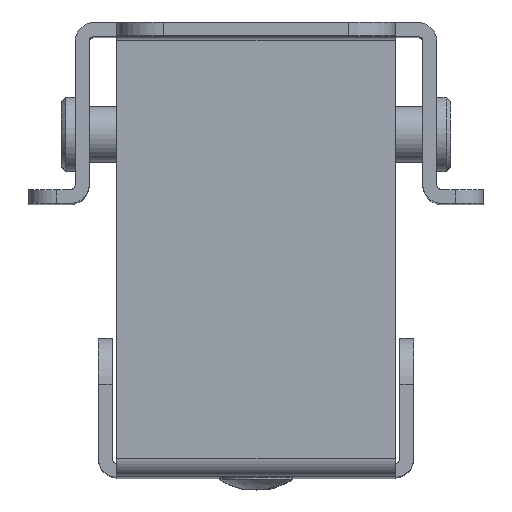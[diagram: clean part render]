
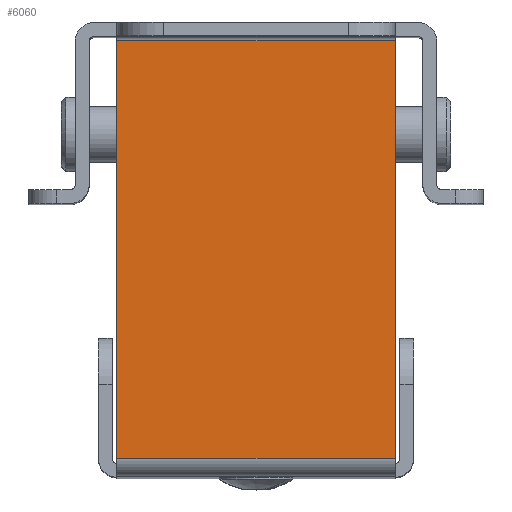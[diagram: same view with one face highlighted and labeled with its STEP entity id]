
A CAD part, top view. The second image highlights one B-rep face of the part: STEP entity #6060.
In plain terms, the highlighted planar face has unit normal (0, 0, 1) as drawn and (1, 0, 0) by its records, which use the part's own axes.
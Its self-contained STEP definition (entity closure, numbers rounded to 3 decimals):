
#315 = VECTOR ( 'NONE', #4804, 1000. ) ;
#437 = LINE ( 'NONE', #4262, #4689 ) ;
#1146 = CARTESIAN_POINT ( 'NONE',  ( 64.5, -2., -15. ) ) ;
#1393 = VECTOR ( 'NONE', #4259, 1000. ) ;
#1438 = CARTESIAN_POINT ( 'NONE',  ( 64.5, -47., 15. ) ) ;
#1448 = CARTESIAN_POINT ( 'NONE',  ( 64.5, -2., 15. ) ) ;
#1794 = AXIS2_PLACEMENT_3D ( 'NONE', #1438, #3372, #2902 ) ;
#1910 = PLANE ( 'NONE',  #1794 ) ;
#1912 = CARTESIAN_POINT ( 'NONE',  ( 64.5, -47., 15. ) ) ;
#2133 = ORIENTED_EDGE ( 'NONE', *, *, #2161, .T. ) ;
#2161 = EDGE_CURVE ( 'NONE', #4010, #4400, #5278, .T. ) ;
#2336 = LINE ( 'NONE', #4850, #1393 ) ;
#2546 = LINE ( 'NONE', #5841, #3898 ) ;
#2902 = DIRECTION ( 'NONE',  ( 0., 0., 1. ) ) ;
#3009 = VERTEX_POINT ( 'NONE', #1146 ) ;
#3105 = ORIENTED_EDGE ( 'NONE', *, *, #5594, .F. ) ;
#3214 = ORIENTED_EDGE ( 'NONE', *, *, #6078, .F. ) ;
#3372 = DIRECTION ( 'NONE',  ( -1., 0., 0. ) ) ;
#3530 = EDGE_LOOP ( 'NONE', ( #4101, #3105, #3214, #2133 ) ) ;
#3798 = EDGE_CURVE ( 'NONE', #4400, #3009, #2336, .T. ) ;
#3898 = VECTOR ( 'NONE', #4470, 1000. ) ;
#4010 = VERTEX_POINT ( 'NONE', #4452 ) ;
#4028 = CARTESIAN_POINT ( 'NONE',  ( 64.5, -47., -15. ) ) ;
#4101 = ORIENTED_EDGE ( 'NONE', *, *, #3798, .T. ) ;
#4177 = DIRECTION ( 'NONE',  ( 0., 0., -1. ) ) ;
#4259 = DIRECTION ( 'NONE',  ( 0., 1., 0. ) ) ;
#4262 = CARTESIAN_POINT ( 'NONE',  ( 64.5, -2., 15. ) ) ;
#4400 = VERTEX_POINT ( 'NONE', #4028 ) ;
#4452 = CARTESIAN_POINT ( 'NONE',  ( 64.5, -47., 15. ) ) ;
#4470 = DIRECTION ( 'NONE',  ( 0., 1., 0. ) ) ;
#4689 = VECTOR ( 'NONE', #4177, 1000. ) ;
#4804 = DIRECTION ( 'NONE',  ( 0., 0., -1. ) ) ;
#4839 = FACE_OUTER_BOUND ( 'NONE', #3530, .T. ) ;
#4850 = CARTESIAN_POINT ( 'NONE',  ( 64.5, -47., -15. ) ) ;
#5278 = LINE ( 'NONE', #1912, #315 ) ;
#5594 = EDGE_CURVE ( 'NONE', #5771, #3009, #437, .T. ) ;
#5771 = VERTEX_POINT ( 'NONE', #1448 ) ;
#5841 = CARTESIAN_POINT ( 'NONE',  ( 64.5, -47., 15. ) ) ;
#6060 = ADVANCED_FACE ( 'NONE', ( #4839 ), #1910, .F. ) ;
#6078 = EDGE_CURVE ( 'NONE', #4010, #5771, #2546, .T. ) ;
